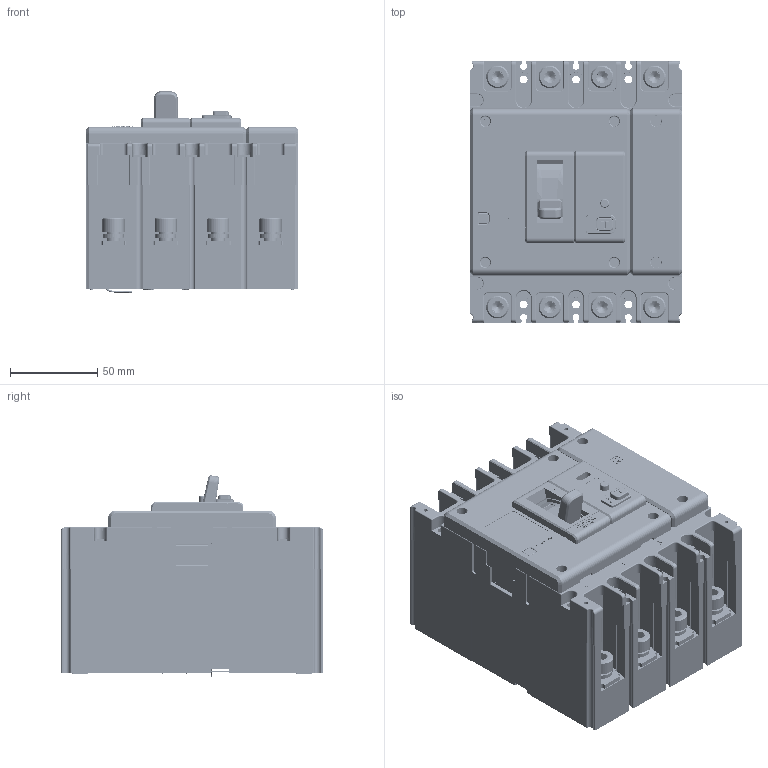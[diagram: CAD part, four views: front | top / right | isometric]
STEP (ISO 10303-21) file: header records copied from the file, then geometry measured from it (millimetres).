
FILE_DESCRIPTION((''),'2;1');
FILE_NAME('125-4','2025-04-14T',('yan01.huang'),(''),'PRO/ENGINEER BY PARAMETRIC TECHNOLOGY CORPORATION, 2017170','PRO/ENGINEER BY PARAMETRIC TECHNOLOGY CORPORATION, 2017170','');
FILE_SCHEMA(('CONFIG_CONTROL_DESIGN'));
Products named in the file (1): 125-4
Bounding box: 122 x 150 x 115.53 mm (x, y, z)
Volume: 1120803.8 mm3; surface area: 320456.3 mm2
Topology: 11 solids, 33 shells, 8615 faces, 21553 edges, 13144 vertices
Faces by surface type: plane 3932, cylinder 2847, torus 520, sphere 395, bspline 370, cone 293, extrusion 258
Entity records: 300390 total; most frequent: CARTESIAN_POINT 95735, ORIENTED_EDGE 43038, DIRECTION 42340, EDGE_CURVE 21519, AXIS2_PLACEMENT_3D 14356, VECTOR 13628, LINE 13370, VERTEX_POINT 13144
